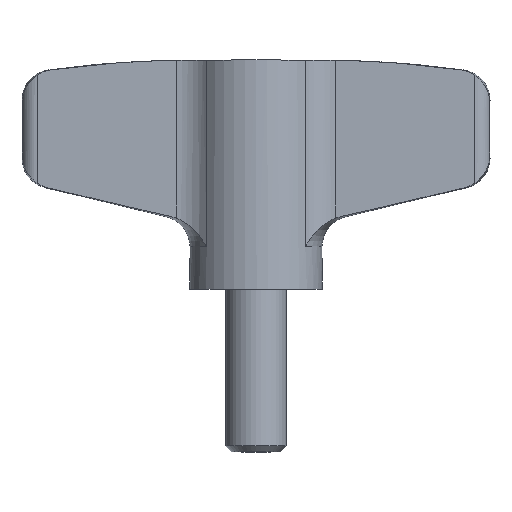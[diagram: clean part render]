
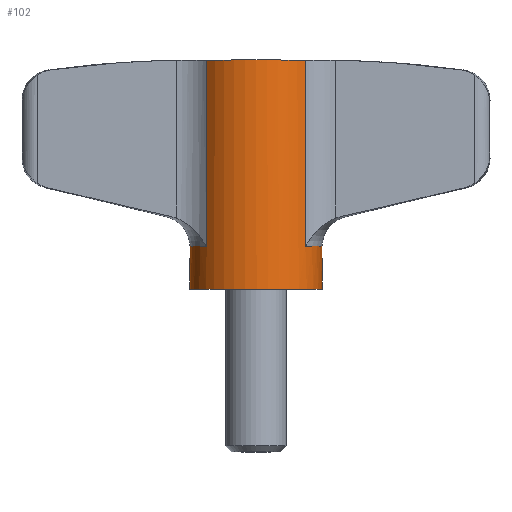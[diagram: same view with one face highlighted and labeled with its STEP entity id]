
A CAD part, top view. The second image highlights one B-rep face of the part: STEP entity #102.
In plain terms, the highlighted cylindrical face has radius 6.5 mm (diameter 13 mm), a full revolution.
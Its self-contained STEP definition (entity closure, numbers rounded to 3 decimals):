
#102 = ADVANCED_FACE( '', ( #163, #164 ), #165, .T. );
#163 = FACE_OUTER_BOUND( '', #271, .T. );
#164 = FACE_OUTER_BOUND( '', #272, .T. );
#165 = CYLINDRICAL_SURFACE( '', #273, 6.5 );
#271 = EDGE_LOOP( '', ( #477, #478, #479, #480, #481, #482, #483, #484 ) );
#272 = EDGE_LOOP( '', ( #485 ) );
#273 = AXIS2_PLACEMENT_3D( '', #486, #487, #488 );
#477 = ORIENTED_EDGE( '', *, *, #537, .T. );
#478 = ORIENTED_EDGE( '', *, *, #570, .T. );
#479 = ORIENTED_EDGE( '', *, *, #577, .F. );
#480 = ORIENTED_EDGE( '', *, *, #566, .F. );
#481 = ORIENTED_EDGE( '', *, *, #512, .T. );
#482 = ORIENTED_EDGE( '', *, *, #509, .T. );
#483 = ORIENTED_EDGE( '', *, *, #541, .F. );
#484 = ORIENTED_EDGE( '', *, *, #564, .F. );
#485 = ORIENTED_EDGE( '', *, *, #562, .T. );
#486 = CARTESIAN_POINT( '', ( 0., 22.5, 0. ) );
#487 = DIRECTION( '', ( 0., 1., 0. ) );
#488 = DIRECTION( '', ( 0., 0., -1. ) );
#509 = EDGE_CURVE( '', #585, #583, #586, .T. );
#512 = EDGE_CURVE( '', #590, #585, #591, .T. );
#537 = EDGE_CURVE( '', #637, #635, #638, .T. );
#541 = EDGE_CURVE( '', #642, #583, #644, .T. );
#562 = EDGE_CURVE( '', #677, #677, #678, .T. );
#564 = EDGE_CURVE( '', #637, #642, #681, .T. );
#566 = EDGE_CURVE( '', #590, #679, #683, .T. );
#570 = EDGE_CURVE( '', #635, #688, #690, .T. );
#577 = EDGE_CURVE( '', #679, #688, #697, .T. );
#583 = VERTEX_POINT( '', #708 );
#585 = VERTEX_POINT( '', #723 );
#586 = CIRCLE( '', #724, 6.5 );
#590 = VERTEX_POINT( '', #748 );
#591 = LINE( '', #749, #750 );
#635 = VERTEX_POINT( '', #901 );
#637 = VERTEX_POINT( '', #918 );
#638 = LINE( '', #919, #920 );
#642 = VERTEX_POINT( '', #934 );
#644 = LINE( '', #945, #946 );
#677 = VERTEX_POINT( '', #1068 );
#678 = CIRCLE( '', #1069, 6.5 );
#679 = VERTEX_POINT( '', #1070 );
#681 = CIRCLE( '', #1072, 6.5 );
#683 = CIRCLE( '', #1074, 6.5 );
#688 = VERTEX_POINT( '', #1079 );
#690 = CIRCLE( '', #1094, 6.5 );
#697 = LINE( '', #1124, #1125 );
#708 = CARTESIAN_POINT( '', ( -4.845, 4.192, -4.333 ) );
#723 = CARTESIAN_POINT( '', ( -4.845, 4.192, 4.333 ) );
#724 = AXIS2_PLACEMENT_3D( '', #1129, #1130, #1131 );
#748 = CARTESIAN_POINT( '', ( -4.845, 22.5, 4.333 ) );
#749 = CARTESIAN_POINT( '', ( -4.845, 22.5, 4.333 ) );
#750 = VECTOR( '', #1132, 1000. );
#901 = CARTESIAN_POINT( '', ( 4.845, 4.192, -4.333 ) );
#918 = CARTESIAN_POINT( '', ( 4.845, 22.5, -4.333 ) );
#919 = CARTESIAN_POINT( '', ( 4.845, 22.5, -4.333 ) );
#920 = VECTOR( '', #1150, 1000. );
#934 = CARTESIAN_POINT( '', ( -4.845, 22.5, -4.333 ) );
#945 = CARTESIAN_POINT( '', ( -4.845, 22.5, -4.333 ) );
#946 = VECTOR( '', #1152, 1000. );
#1068 = CARTESIAN_POINT( '', ( 6.5, 0., 0. ) );
#1069 = AXIS2_PLACEMENT_3D( '', #1168, #1169, #1170 );
#1070 = CARTESIAN_POINT( '', ( 4.845, 22.5, 4.333 ) );
#1072 = AXIS2_PLACEMENT_3D( '', #1174, #1175, #1176 );
#1074 = AXIS2_PLACEMENT_3D( '', #1180, #1181, #1182 );
#1079 = CARTESIAN_POINT( '', ( 4.845, 4.192, 4.333 ) );
#1094 = AXIS2_PLACEMENT_3D( '', #1189, #1190, #1191 );
#1124 = CARTESIAN_POINT( '', ( 4.845, 22.5, 4.333 ) );
#1125 = VECTOR( '', #1201, 1000. );
#1129 = CARTESIAN_POINT( '', ( 0., 4.192, 0. ) );
#1130 = DIRECTION( '', ( 0., -1., 0. ) );
#1131 = DIRECTION( '', ( 0., 0., -1. ) );
#1132 = DIRECTION( '', ( 0., -1., 0. ) );
#1150 = DIRECTION( '', ( 0., -1., 0. ) );
#1152 = DIRECTION( '', ( 0., -1., 0. ) );
#1168 = CARTESIAN_POINT( '', ( 0., 0., 0. ) );
#1169 = DIRECTION( '', ( 0., 1., 0. ) );
#1170 = DIRECTION( '', ( 1., 0., 0. ) );
#1174 = CARTESIAN_POINT( '', ( 0., 22.5, 0. ) );
#1175 = DIRECTION( '', ( 0., 1., 0. ) );
#1176 = DIRECTION( '', ( 1., 0., 0. ) );
#1180 = CARTESIAN_POINT( '', ( 0., 22.5, 0. ) );
#1181 = DIRECTION( '', ( 0., 1., 0. ) );
#1182 = DIRECTION( '', ( 1., 0., 0. ) );
#1189 = CARTESIAN_POINT( '', ( 0., 4.192, 0. ) );
#1190 = DIRECTION( '', ( 0., -1., 0. ) );
#1191 = DIRECTION( '', ( 0., 0., -1. ) );
#1201 = DIRECTION( '', ( 0., -1., 0. ) );
